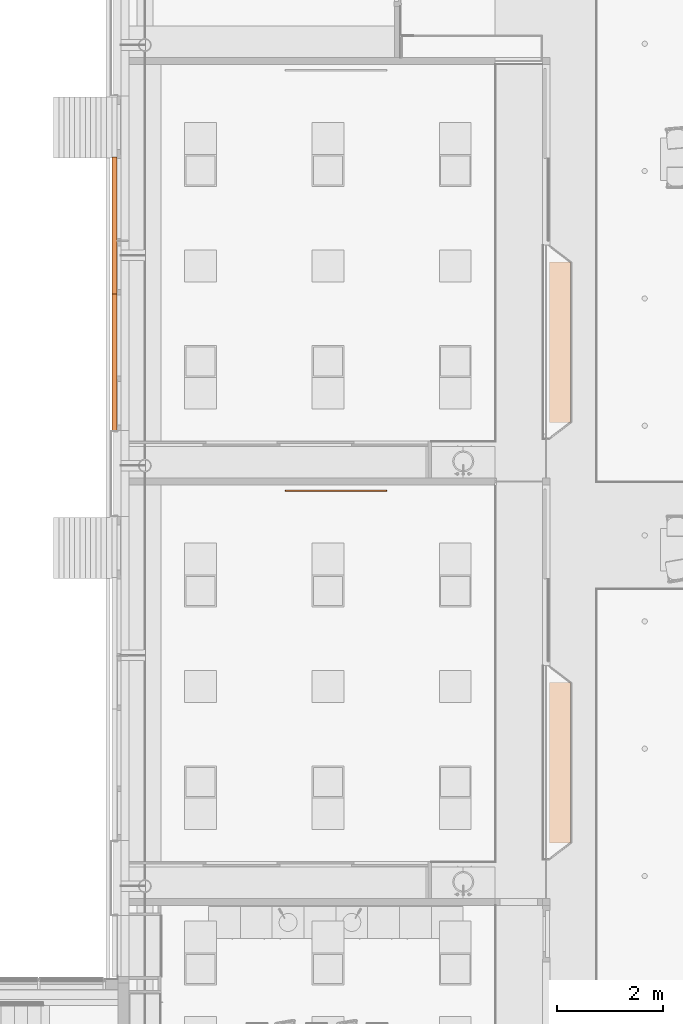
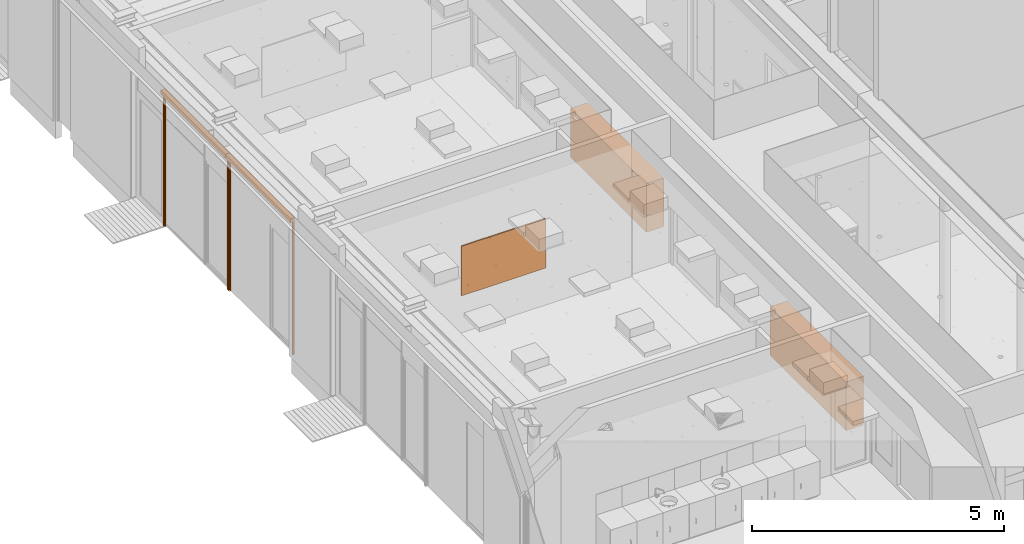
# One storey, part 331 of 347: 5 proxies.
"""IFC2X3 building model written with IfcOpenShell, lengths in millimetres."""

from ifc_helpers import new_model, entity, si_unit, converted_unit, derived_unit, money_unit, direction, frame, origin_with_axes, place, context, subcontext, project, spatial, open_shell, faceted_brep, surface_model, source, transform, mapped, type_object, type_shapes, element, save


model = new_model("IFC2X3")

# Units and contexts
model_context = context("Model", 3, precision=0.01, world=origin_with_axes(), true_north=direction((0.0, 1.0)))
plan_context = context("Plan", 3, precision=0.01, world=origin_with_axes(), true_north=direction((0.0, 1.0)))
body_context = subcontext(model_context, "Body", "Model", "MODEL_VIEW")
ifc_project = project(units=[si_unit("LENGTHUNIT", "METRE", prefix="MILLI"), si_unit("AREAUNIT", "SQUARE_METRE"), si_unit("VOLUMEUNIT", "CUBIC_METRE"), converted_unit("PLANEANGLEUNIT", "DEGREE", entity("IfcPlaneAngleMeasure", 0.0174532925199), si_unit("PLANEANGLEUNIT", "RADIAN"), dimensions=[0, 0, 0, 0, 0, 0, 0]), money_unit("EUR"), converted_unit("TIMEUNIT", "Year", entity("IfcTimeMeasure", 31556926.0), si_unit("TIMEUNIT", "SECOND"), dimensions=[0, 0, 1, 0, 0, 0, 0]), si_unit("MASSUNIT", "GRAM", prefix="KILO"), si_unit("THERMODYNAMICTEMPERATUREUNIT", "DEGREE_CELSIUS"), si_unit("LUMINOUSINTENSITYUNIT", "LUMEN"), si_unit("ENERGYUNIT", "JOULE", prefix="MEGA"), derived_unit("THERMALCONDUCTANCEUNIT", [(si_unit("POWERUNIT", "WATT"), 1), (si_unit("LENGTHUNIT", "METRE"), -1), (si_unit("THERMODYNAMICTEMPERATUREUNIT", "KELVIN"), -1)]), derived_unit("SPECIFICHEATCAPACITYUNIT", [(si_unit("ENERGYUNIT", "JOULE"), 1), (si_unit("MASSUNIT", "GRAM", prefix="KILO"), -1), (si_unit("THERMODYNAMICTEMPERATUREUNIT", "KELVIN"), -1)]), derived_unit("MASSDENSITYUNIT", [(si_unit("MASSUNIT", "GRAM", prefix="KILO"), 1), (si_unit("VOLUMEUNIT", "CUBIC_METRE"), -1)])], contexts=[model_context, plan_context])

# Site, building, storey
site_placement = place(None, origin_with_axes())
site = spatial("IfcSite", under=ifc_project, at=site_placement, Name="Site", CompositionType="ELEMENT")
building_placement = place(site_placement, origin_with_axes())
building = spatial("IfcBuilding", under=site, at=building_placement, Name="Naam gebouw", CompositionType="ELEMENT")
storey_placement = place(building_placement, origin_with_axes())
storey = spatial("IfcBuildingStorey", under=building, at=storey_placement, Name="begane grond", CompositionType="ELEMENT", Elevation=0.0)

# Proxies
building_element_proxy_type_1 = type_object("IfcBuildingElementProxyType", Name="Digitaal bord 25", PredefinedType="NOTDEFINED")
shared_shape_1 = source(origin_with_axes(), body_context, "Body", "SurfaceModel", [
    faceted_brep([(0.0, 0.0, 1000.0), (1930.0, 0.0, 1000.0), (1930.0, -30.0, 1000.0), (0.0, -30.0, 1000.0), (0.0, 0.0, 2185.0), (4.3933982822, 0.0, 2195.60660172), (15.0, 0.0, 2200.0), (1915.0, 0.0, 2200.0), (1925.60660172, 0.0, 2195.60660172), (1930.0, 0.0, 2185.0), (20.0, 0.0, 1025.0), (1910.0, 0.0, 1025.0), (1910.0, 0.0, 2180.0), (20.0, 0.0, 2180.0), (1930.0, -30.0, 2185.0), (1925.60660172, -30.0, 2195.60660172), (1915.0, -30.0, 2200.0), (15.0, -30.0, 2200.0), (4.3933982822, -30.0, 2195.60660172), (0.0, -30.0, 2185.0), (20.0, -30.0, 1025.0), (20.0, -30.0, 2180.0), (1910.0, -30.0, 2180.0), (1910.0, -30.0, 1025.0)], [[[0, 1, 2, 3]], [[0, 4, 5, 6, 7, 8, 9, 1], [10, 11, 12, 13]], [[1, 9, 14, 2]], [[3, 2, 14, 15, 16, 17, 18, 19], [20, 21, 22, 23]], [[4, 0, 3, 19]], [[5, 4, 19, 18]], [[6, 5, 18, 17]], [[7, 6, 17, 16]], [[8, 7, 16, 15]], [[9, 8, 15, 14]], [[11, 10, 20, 23]], [[12, 11, 23, 22]], [[13, 12, 22, 21]], [[10, 13, 21, 20]]]),
    faceted_brep([(20.0, 0.0, 1025.0), (1910.0, 0.0, 1025.0), (1910.0, -29.0, 1025.0), (20.0, -29.0, 1025.0), (20.0, 0.0, 2180.0), (1910.0, 0.0, 2180.0), (1910.0, -29.0, 2180.0), (20.0, -29.0, 2180.0)], [[[0, 1, 2, 3]], [[0, 4, 5, 1]], [[1, 5, 6, 2]], [[3, 2, 6, 7]], [[4, 0, 3, 7]], [[5, 4, 7, 6]]]),
    surface_model("IfcShellBasedSurfaceModel", [(20.0, -30.0, 1025.0), (1910.0, -30.0, 1025.0), (1910.0, -30.0, 2180.0), (20.0, -30.0, 2180.0)], [open_shell([[[0, 1, 2, 3]]])]),
])
type_shapes(building_element_proxy_type_1, [shared_shape_1])
proxy_placement = place(storey_placement, frame((27212.556147, 27812.5, 0.0), z_axis=(0.0, 0.0, 1.0), x_axis=(1.0, 0.0, 0.0)))
element("IfcBuildingElementProxy", 1, at=proxy_placement, inside=storey, type_object=building_element_proxy_type_1, Name="82_DiGi-bord", context=body_context, shape_type="MappedRepresentation", body=[
    mapped(shared_shape_1, transform((0.0, 0.0, 0.0))),
])
building_element_proxy_type_2 = type_object("IfcBuildingElementProxyType", Name="Screen 25 KM", PredefinedType="NOTDEFINED")
shared_shape_2 = source(origin_with_axes(), body_context, "Body", "SurfaceModel", [
    faceted_brep([(0.0, 0.0, 0.0), (0.0, 0.0, 3220.0), (0.0, -40.0, 3220.0), (0.0, -40.0, 0.0), (-38.0, 0.0, 0.0), (-38.0, 0.0, 3220.0), (-38.0, -10.0, 3220.0), (-35.0, -10.0, 3220.0), (-35.0, -3.0, 3220.0), (-3.0, -3.0, 3220.0), (-3.0, -37.0, 3220.0), (-35.0, -37.0, 3220.0), (-35.0, -30.0, 3220.0), (-38.0, -30.0, 3220.0), (-38.0, -40.0, 3220.0), (-38.0, -40.0, 0.0), (-38.0, -30.0, 0.0), (-35.0, -30.0, 0.0), (-35.0, -37.0, 0.0), (-3.0, -37.0, 0.0), (-3.0, -3.0, 0.0), (-35.0, -3.0, 0.0), (-35.0, -10.0, 0.0), (-38.0, -10.0, 0.0)], [[[0, 1, 2, 3]], [[4, 5, 1, 0]], [[1, 5, 6, 7, 8, 9, 10, 11, 12, 13, 14, 2]], [[3, 2, 14, 15]], [[0, 3, 15, 16, 17, 18, 19, 20, 21, 22, 23, 4]], [[23, 6, 5, 4]], [[22, 7, 6, 23]], [[21, 8, 7, 22]], [[20, 9, 8, 21]], [[19, 10, 9, 20]], [[18, 11, 10, 19]], [[17, 12, 11, 18]], [[16, 13, 12, 17]], [[15, 14, 13, 16]]]),
    faceted_brep([(-2575.0, 0.0, 0.0), (-2575.0, -40.0, 0.0), (-2575.0, -40.0, 3220.0), (-2575.0, 0.0, 3220.0), (-2537.0, 0.0, 0.0), (-2537.0, -10.0, 0.0), (-2540.0, -10.0, 0.0), (-2540.0, -3.0, 0.0), (-2572.0, -3.0, 0.0), (-2572.0, -37.0, 0.0), (-2540.0, -37.0, 0.0), (-2540.0, -30.0, 0.0), (-2537.0, -30.0, 0.0), (-2537.0, -40.0, 0.0), (-2537.0, -40.0, 3220.0), (-2537.0, -30.0, 3220.0), (-2540.0, -30.0, 3220.0), (-2540.0, -37.0, 3220.0), (-2572.0, -37.0, 3220.0), (-2572.0, -3.0, 3220.0), (-2540.0, -3.0, 3220.0), (-2540.0, -10.0, 3220.0), (-2537.0, -10.0, 3220.0), (-2537.0, 0.0, 3220.0)], [[[0, 1, 2, 3]], [[0, 4, 5, 6, 7, 8, 9, 10, 11, 12, 13, 1]], [[1, 13, 14, 2]], [[3, 2, 14, 15, 16, 17, 18, 19, 20, 21, 22, 23]], [[4, 0, 3, 23]], [[5, 4, 23, 22]], [[6, 5, 22, 21]], [[7, 6, 21, 20]], [[8, 7, 20, 19]], [[9, 8, 19, 18]], [[10, 9, 18, 17]], [[11, 10, 17, 16]], [[12, 11, 16, 15]], [[13, 12, 15, 14]]]),
    surface_model("IfcShellBasedSurfaceModel", [(0.0, 0.0, 3320.0), (0.0, -100.0, 3320.0), (0.0, -100.0, 3220.0), (0.0, 0.0, 3220.0)], [open_shell([[[0, 1, 2, 3]]])]),
    surface_model("IfcShellBasedSurfaceModel", [(-0.01, 0.0, 3320.0), (-2574.99, 0.0, 3320.0), (-2574.99, -100.0, 3320.0), (-0.00999999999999, -100.0, 3320.0), (-0.01, 0.0, 3223.0), (-2574.99, 0.0, 3223.0), (-2574.99, -6.0, 3223.0), (-2574.99, -6.0, 3226.0), (-2574.99, -3.0, 3226.0), (-2574.99, -3.0, 3317.0), (-2574.99, -97.0, 3317.0), (-2574.99, -97.0, 3223.0), (-2574.99, -40.0, 3223.0), (-2574.99, -40.0, 3217.0), (-2574.99, -43.0, 3217.0), (-2574.99, -43.0, 3220.0), (-2574.99, -100.0, 3220.0), (-0.01, -100.0, 3220.0), (-0.01, -43.0, 3220.0), (-0.01, -43.0, 3217.0), (-0.01, -40.0, 3217.0), (-0.01, -40.0, 3223.0), (-0.01, -97.0, 3223.0), (-0.00999999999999, -97.0, 3317.0), (-0.01, -3.0, 3317.0), (-0.01, -3.0, 3226.0), (-0.01, -6.0, 3226.0), (-0.01, -6.0, 3223.0)], [open_shell([[[0, 1, 2, 3]], [[4, 5, 1, 0]], [[1, 5, 6, 7, 8, 9, 10, 11, 12, 13, 14, 15, 16, 2]], [[3, 2, 16, 17]], [[0, 3, 17, 18, 19, 20, 21, 22, 23, 24, 25, 26, 27, 4]], [[19, 14, 13, 20]], [[18, 15, 14, 19]], [[17, 16, 15, 18]]])]),
    surface_model("IfcShellBasedSurfaceModel", [(-2574.99, 0.0, 3320.0), (-2574.99, -100.0, 3320.0), (-2574.99, -100.0, 3220.0), (-2574.99, 0.0, 3220.0)], [open_shell([[[0, 1, 2, 3]]])]),
])
type_shapes(building_element_proxy_type_2, [shared_shape_2])
for number, where, z_axis, x_axis, name in (
    (2, (24052.0, 28937.5, -10.0), (0.0, 0.0, 1.0), (0.0, -1.0, 0.0), "_78 garderobe"),
    (3, (24052.0, 31512.5, -10.0), (0.0, 0.0, 1.0), (0.0, -1.0, 0.0), "_78 garderobe"),
):
    element("IfcBuildingElementProxy", number, at=place(storey_placement, frame(where, z_axis=z_axis, x_axis=x_axis)), inside=storey, type_object=building_element_proxy_type_2, Name=name, context=body_context, shape_type="MappedRepresentation", body=[
        mapped(shared_shape_2, transform((0.0, 0.0, 0.0))),
    ])
building_element_proxy_type_3 = type_object("IfcBuildingElementProxyType", Name="Kast modulair 25", PredefinedType="NOTDEFINED")
shared_shape_3 = source(origin_with_axes(), body_context, "Body", "Brep", [
    faceted_brep([(0.0, 10.0, 0.0), (3018.0, 10.0, 0.0), (3018.0, 10.0, 50.0), (0.0, 10.0, 50.0), (0.0, 400.0, 0.0), (3018.0, 400.0, 0.0), (3018.0, 400.0, 50.0), (0.0, 400.0, 50.0)], [[[0, 1, 2, 3]], [[0, 4, 5, 1]], [[1, 5, 6, 2]], [[3, 2, 6, 7]], [[4, 0, 3, 7]], [[5, 4, 7, 6]]]),
    faceted_brep([(18.0, 400.0, 68.0), (3000.0, 400.0, 68.0), (3000.0, 382.0, 68.0), (18.0, 382.0, 68.0), (18.0, 400.0, 1160.0), (3000.0, 400.0, 1160.0), (3000.0, 400.0, 790.0), (3000.0, 400.0, 420.0), (3000.0, 382.0, 420.0), (3000.0, 382.0, 790.0), (3000.0, 382.0, 1160.0), (18.0, 382.0, 1160.0)], [[[0, 1, 2, 3]], [[0, 4, 5, 6, 7, 1]], [[1, 7, 8, 2]], [[3, 2, 8, 9, 10, 11]], [[4, 0, 3, 11]], [[5, 4, 11, 10]], [[6, 5, 10, 9]], [[7, 6, 9, 8]]]),
    faceted_brep([(3018.0, 0.0, 50.0), (0.0, 0.0, 50.0), (0.0, 400.0, 50.0), (3018.0, 400.0, 50.0), (3018.0, 0.0, 68.0), (0.0, 0.0, 68.0), (0.0, 400.0, 68.0), (3018.0, 400.0, 68.0)], [[[0, 1, 2, 3]], [[1, 0, 4, 5]], [[2, 1, 5, 6]], [[3, 2, 6, 7]], [[0, 3, 7, 4]], [[5, 4, 7, 6]]]),
    faceted_brep([(18.0, 0.0, 68.0), (0.0, 0.0, 68.0), (0.0, 400.0, 68.0), (18.0, 400.0, 68.0), (18.0, 0.0, 420.0), (0.0, 0.0, 420.0), (0.0, 400.0, 420.0), (18.0, 400.0, 420.0)], [[[0, 1, 2, 3]], [[1, 0, 4, 5]], [[2, 1, 5, 6]], [[3, 2, 6, 7]], [[0, 3, 7, 4]], [[5, 4, 7, 6]]]),
    faceted_brep([(318.0, 0.0, 68.0), (300.0, 0.0, 68.0), (300.0, 382.0, 68.0), (318.0, 382.0, 68.0), (318.0, 0.0, 420.0), (300.0, 0.0, 420.0), (300.0, 382.0, 420.0), (318.0, 382.0, 420.0)], [[[0, 1, 2, 3]], [[1, 0, 4, 5]], [[2, 1, 5, 6]], [[3, 2, 6, 7]], [[0, 3, 7, 4]], [[5, 4, 7, 6]]]),
    faceted_brep([(618.0, 0.0, 68.0), (600.0, 0.0, 68.0), (600.0, 382.0, 68.0), (618.0, 382.0, 68.0), (618.0, 0.0, 420.0), (600.0, 0.0, 420.0), (600.0, 382.0, 420.0), (618.0, 382.0, 420.0)], [[[0, 1, 2, 3]], [[1, 0, 4, 5]], [[2, 1, 5, 6]], [[3, 2, 6, 7]], [[0, 3, 7, 4]], [[5, 4, 7, 6]]]),
    faceted_brep([(918.0, 0.0, 68.0), (900.0, 0.0, 68.0), (900.0, 382.0, 68.0), (918.0, 382.0, 68.0), (918.0, 0.0, 420.0), (900.0, 0.0, 420.0), (900.0, 382.0, 420.0), (918.0, 382.0, 420.0)], [[[0, 1, 2, 3]], [[1, 0, 4, 5]], [[2, 1, 5, 6]], [[3, 2, 6, 7]], [[0, 3, 7, 4]], [[5, 4, 7, 6]]]),
    faceted_brep([(1218.0, 0.0, 68.0), (1200.0, 0.0, 68.0), (1200.0, 382.0, 68.0), (1218.0, 382.0, 68.0), (1218.0, 0.0, 420.0), (1200.0, 0.0, 420.0), (1200.0, 382.0, 420.0), (1218.0, 382.0, 420.0)], [[[0, 1, 2, 3]], [[1, 0, 4, 5]], [[2, 1, 5, 6]], [[3, 2, 6, 7]], [[0, 3, 7, 4]], [[5, 4, 7, 6]]]),
    faceted_brep([(1518.0, 0.0, 68.0), (1500.0, 0.0, 68.0), (1500.0, 382.0, 68.0), (1518.0, 382.0, 68.0), (1518.0, 0.0, 420.0), (1500.0, 0.0, 420.0), (1500.0, 382.0, 420.0), (1518.0, 382.0, 420.0)], [[[0, 1, 2, 3]], [[1, 0, 4, 5]], [[2, 1, 5, 6]], [[3, 2, 6, 7]], [[0, 3, 7, 4]], [[5, 4, 7, 6]]]),
    faceted_brep([(1818.0, 0.0, 68.0), (1800.0, 0.0, 68.0), (1800.0, 382.0, 68.0), (1818.0, 382.0, 68.0), (1818.0, 0.0, 420.0), (1800.0, 0.0, 420.0), (1800.0, 382.0, 420.0), (1818.0, 382.0, 420.0)], [[[0, 1, 2, 3]], [[1, 0, 4, 5]], [[2, 1, 5, 6]], [[3, 2, 6, 7]], [[0, 3, 7, 4]], [[5, 4, 7, 6]]]),
    faceted_brep([(2118.0, 0.0, 68.0), (2100.0, 0.0, 68.0), (2100.0, 382.0, 68.0), (2118.0, 382.0, 68.0), (2118.0, 0.0, 420.0), (2100.0, 0.0, 420.0), (2100.0, 382.0, 420.0), (2118.0, 382.0, 420.0)], [[[0, 1, 2, 3]], [[1, 0, 4, 5]], [[2, 1, 5, 6]], [[3, 2, 6, 7]], [[0, 3, 7, 4]], [[5, 4, 7, 6]]]),
    faceted_brep([(2418.0, 0.0, 68.0), (2400.0, 0.0, 68.0), (2400.0, 382.0, 68.0), (2418.0, 382.0, 68.0), (2418.0, 0.0, 420.0), (2400.0, 0.0, 420.0), (2400.0, 382.0, 420.0), (2418.0, 382.0, 420.0)], [[[0, 1, 2, 3]], [[1, 0, 4, 5]], [[2, 1, 5, 6]], [[3, 2, 6, 7]], [[0, 3, 7, 4]], [[5, 4, 7, 6]]]),
    faceted_brep([(2718.0, 0.0, 68.0), (2700.0, 0.0, 68.0), (2700.0, 382.0, 68.0), (2718.0, 382.0, 68.0), (2718.0, 0.0, 420.0), (2700.0, 0.0, 420.0), (2700.0, 382.0, 420.0), (2718.0, 382.0, 420.0)], [[[0, 1, 2, 3]], [[1, 0, 4, 5]], [[2, 1, 5, 6]], [[3, 2, 6, 7]], [[0, 3, 7, 4]], [[5, 4, 7, 6]]]),
    faceted_brep([(3018.0, 0.0, 68.0), (3000.0, 0.0, 68.0), (3000.0, 400.0, 68.0), (3018.0, 400.0, 68.0), (3018.0, 0.0, 420.0), (3000.0, 0.0, 420.0), (3000.0, 400.0, 420.0), (3018.0, 400.0, 420.0)], [[[0, 1, 2, 3]], [[1, 0, 4, 5]], [[2, 1, 5, 6]], [[3, 2, 6, 7]], [[0, 3, 7, 4]], [[5, 4, 7, 6]]]),
    faceted_brep([(3000.0, 400.0, 420.0), (3000.0, 400.0, 438.0), (3018.0, 400.0, 438.0), (3018.0, 400.0, 420.0), (3000.0, 382.0, 438.0), (3000.0, 382.0, 420.0), (18.0, 382.0, 438.0), (18.0, 400.0, 438.0), (0.0, 400.0, 438.0), (0.0, 0.0, 438.0), (3018.0, 0.0, 438.0), (3018.0, 0.0, 420.0), (0.0, 0.0, 420.0), (0.0, 400.0, 420.0), (18.0, 400.0, 420.0), (18.0, 382.0, 420.0)], [[[0, 1, 2, 3]], [[4, 1, 0, 5]], [[6, 7, 8, 9, 10, 2, 1, 4]], [[3, 2, 10, 11]], [[5, 0, 3, 11, 12, 13, 14, 15]], [[6, 4, 5, 15]], [[14, 7, 6, 15]], [[7, 14, 13, 8]], [[12, 9, 8, 13]], [[11, 10, 9, 12]]]),
    faceted_brep([(3000.0, 400.0, 790.0), (3000.0, 400.0, 808.0), (3018.0, 400.0, 808.0), (3018.0, 400.0, 790.0), (3000.0, 382.0, 808.0), (3000.0, 382.0, 790.0), (18.0, 382.0, 808.0), (18.0, 400.0, 808.0), (0.0, 400.0, 808.0), (0.0, 0.0, 808.0), (3018.0, 0.0, 808.0), (3018.0, 0.0, 790.0), (0.0, 0.0, 790.0), (0.0, 400.0, 790.0), (18.0, 400.0, 790.0), (18.0, 382.0, 790.0)], [[[0, 1, 2, 3]], [[4, 1, 0, 5]], [[6, 7, 8, 9, 10, 2, 1, 4]], [[3, 2, 10, 11]], [[5, 0, 3, 11, 12, 13, 14, 15]], [[6, 4, 5, 15]], [[14, 7, 6, 15]], [[7, 14, 13, 8]], [[12, 9, 8, 13]], [[11, 10, 9, 12]]]),
    faceted_brep([(18.0, 0.0, 438.0), (0.0, 0.0, 438.0), (0.0, 400.0, 438.0), (18.0, 400.0, 438.0), (18.0, 0.0, 790.0), (0.0, 0.0, 790.0), (0.0, 400.0, 790.0), (18.0, 400.0, 790.0)], [[[0, 1, 2, 3]], [[1, 0, 4, 5]], [[2, 1, 5, 6]], [[3, 2, 6, 7]], [[0, 3, 7, 4]], [[5, 4, 7, 6]]]),
    faceted_brep([(318.0, 0.0, 438.0), (300.0, 0.0, 438.0), (300.0, 382.0, 438.0), (318.0, 382.0, 438.0), (318.0, 0.0, 790.0), (300.0, 0.0, 790.0), (300.0, 382.0, 790.0), (318.0, 382.0, 790.0)], [[[0, 1, 2, 3]], [[1, 0, 4, 5]], [[2, 1, 5, 6]], [[3, 2, 6, 7]], [[0, 3, 7, 4]], [[5, 4, 7, 6]]]),
    faceted_brep([(618.0, 0.0, 438.0), (600.0, 0.0, 438.0), (600.0, 382.0, 438.0), (618.0, 382.0, 438.0), (618.0, 0.0, 790.0), (600.0, 0.0, 790.0), (600.0, 382.0, 790.0), (618.0, 382.0, 790.0)], [[[0, 1, 2, 3]], [[1, 0, 4, 5]], [[2, 1, 5, 6]], [[3, 2, 6, 7]], [[0, 3, 7, 4]], [[5, 4, 7, 6]]]),
    faceted_brep([(918.0, 0.0, 438.0), (900.0, 0.0, 438.0), (900.0, 382.0, 438.0), (918.0, 382.0, 438.0), (918.0, 0.0, 790.0), (900.0, 0.0, 790.0), (900.0, 382.0, 790.0), (918.0, 382.0, 790.0)], [[[0, 1, 2, 3]], [[1, 0, 4, 5]], [[2, 1, 5, 6]], [[3, 2, 6, 7]], [[0, 3, 7, 4]], [[5, 4, 7, 6]]]),
    faceted_brep([(1218.0, 0.0, 438.0), (1200.0, 0.0, 438.0), (1200.0, 382.0, 438.0), (1218.0, 382.0, 438.0), (1218.0, 0.0, 790.0), (1200.0, 0.0, 790.0), (1200.0, 382.0, 790.0), (1218.0, 382.0, 790.0)], [[[0, 1, 2, 3]], [[1, 0, 4, 5]], [[2, 1, 5, 6]], [[3, 2, 6, 7]], [[0, 3, 7, 4]], [[5, 4, 7, 6]]]),
    faceted_brep([(1518.0, 0.0, 438.0), (1500.0, 0.0, 438.0), (1500.0, 382.0, 438.0), (1518.0, 382.0, 438.0), (1518.0, 0.0, 790.0), (1500.0, 0.0, 790.0), (1500.0, 382.0, 790.0), (1518.0, 382.0, 790.0)], [[[0, 1, 2, 3]], [[1, 0, 4, 5]], [[2, 1, 5, 6]], [[3, 2, 6, 7]], [[0, 3, 7, 4]], [[5, 4, 7, 6]]]),
    faceted_brep([(1818.0, 0.0, 438.0), (1800.0, 0.0, 438.0), (1800.0, 382.0, 438.0), (1818.0, 382.0, 438.0), (1818.0, 0.0, 790.0), (1800.0, 0.0, 790.0), (1800.0, 382.0, 790.0), (1818.0, 382.0, 790.0)], [[[0, 1, 2, 3]], [[1, 0, 4, 5]], [[2, 1, 5, 6]], [[3, 2, 6, 7]], [[0, 3, 7, 4]], [[5, 4, 7, 6]]]),
    faceted_brep([(2118.0, 0.0, 438.0), (2100.0, 0.0, 438.0), (2100.0, 382.0, 438.0), (2118.0, 382.0, 438.0), (2118.0, 0.0, 790.0), (2100.0, 0.0, 790.0), (2100.0, 382.0, 790.0), (2118.0, 382.0, 790.0)], [[[0, 1, 2, 3]], [[1, 0, 4, 5]], [[2, 1, 5, 6]], [[3, 2, 6, 7]], [[0, 3, 7, 4]], [[5, 4, 7, 6]]]),
    faceted_brep([(2418.0, 0.0, 438.0), (2400.0, 0.0, 438.0), (2400.0, 382.0, 438.0), (2418.0, 382.0, 438.0), (2418.0, 0.0, 790.0), (2400.0, 0.0, 790.0), (2400.0, 382.0, 790.0), (2418.0, 382.0, 790.0)], [[[0, 1, 2, 3]], [[1, 0, 4, 5]], [[2, 1, 5, 6]], [[3, 2, 6, 7]], [[0, 3, 7, 4]], [[5, 4, 7, 6]]]),
    faceted_brep([(2718.0, 0.0, 438.0), (2700.0, 0.0, 438.0), (2700.0, 382.0, 438.0), (2718.0, 382.0, 438.0), (2718.0, 0.0, 790.0), (2700.0, 0.0, 790.0), (2700.0, 382.0, 790.0), (2718.0, 382.0, 790.0)], [[[0, 1, 2, 3]], [[1, 0, 4, 5]], [[2, 1, 5, 6]], [[3, 2, 6, 7]], [[0, 3, 7, 4]], [[5, 4, 7, 6]]]),
    faceted_brep([(3018.0, 0.0, 438.0), (3000.0, 0.0, 438.0), (3000.0, 400.0, 438.0), (3018.0, 400.0, 438.0), (3018.0, 0.0, 790.0), (3000.0, 0.0, 790.0), (3000.0, 400.0, 790.0), (3018.0, 400.0, 790.0)], [[[0, 1, 2, 3]], [[1, 0, 4, 5]], [[2, 1, 5, 6]], [[3, 2, 6, 7]], [[0, 3, 7, 4]], [[5, 4, 7, 6]]]),
    faceted_brep([(0.0, 0.0, 1160.0), (3018.0, 0.0, 1160.0), (3018.0, 0.0, 1178.0), (0.0, 0.0, 1178.0), (0.0, 400.0, 1160.0), (3018.0, 400.0, 1160.0), (3018.0, 400.0, 1178.0), (0.0, 400.0, 1178.0)], [[[0, 1, 2, 3]], [[0, 4, 5, 1]], [[1, 5, 6, 2]], [[3, 2, 6, 7]], [[4, 0, 3, 7]], [[5, 4, 7, 6]]]),
    faceted_brep([(18.0, 0.0, 808.0), (0.0, 0.0, 808.0), (0.0, 400.0, 808.0), (18.0, 400.0, 808.0), (18.0, 0.0, 1160.0), (0.0, 0.0, 1160.0), (0.0, 400.0, 1160.0), (18.0, 400.0, 1160.0)], [[[0, 1, 2, 3]], [[1, 0, 4, 5]], [[2, 1, 5, 6]], [[3, 2, 6, 7]], [[0, 3, 7, 4]], [[5, 4, 7, 6]]]),
    faceted_brep([(318.0, 0.0, 808.0), (300.0, 0.0, 808.0), (300.0, 382.0, 808.0), (318.0, 382.0, 808.0), (318.0, 0.0, 1160.0), (300.0, 0.0, 1160.0), (300.0, 382.0, 1160.0), (318.0, 382.0, 1160.0)], [[[0, 1, 2, 3]], [[1, 0, 4, 5]], [[2, 1, 5, 6]], [[3, 2, 6, 7]], [[0, 3, 7, 4]], [[5, 4, 7, 6]]]),
    faceted_brep([(618.0, 0.0, 808.0), (600.0, 0.0, 808.0), (600.0, 382.0, 808.0), (618.0, 382.0, 808.0), (618.0, 0.0, 1160.0), (600.0, 0.0, 1160.0), (600.0, 382.0, 1160.0), (618.0, 382.0, 1160.0)], [[[0, 1, 2, 3]], [[1, 0, 4, 5]], [[2, 1, 5, 6]], [[3, 2, 6, 7]], [[0, 3, 7, 4]], [[5, 4, 7, 6]]]),
    faceted_brep([(918.0, 0.0, 808.0), (900.0, 0.0, 808.0), (900.0, 382.0, 808.0), (918.0, 382.0, 808.0), (918.0, 0.0, 1160.0), (900.0, 0.0, 1160.0), (900.0, 382.0, 1160.0), (918.0, 382.0, 1160.0)], [[[0, 1, 2, 3]], [[1, 0, 4, 5]], [[2, 1, 5, 6]], [[3, 2, 6, 7]], [[0, 3, 7, 4]], [[5, 4, 7, 6]]]),
    faceted_brep([(1218.0, 0.0, 808.0), (1200.0, 0.0, 808.0), (1200.0, 382.0, 808.0), (1218.0, 382.0, 808.0), (1218.0, 0.0, 1160.0), (1200.0, 0.0, 1160.0), (1200.0, 382.0, 1160.0), (1218.0, 382.0, 1160.0)], [[[0, 1, 2, 3]], [[1, 0, 4, 5]], [[2, 1, 5, 6]], [[3, 2, 6, 7]], [[0, 3, 7, 4]], [[5, 4, 7, 6]]]),
    faceted_brep([(1518.0, 0.0, 808.0), (1500.0, 0.0, 808.0), (1500.0, 382.0, 808.0), (1518.0, 382.0, 808.0), (1518.0, 0.0, 1160.0), (1500.0, 0.0, 1160.0), (1500.0, 382.0, 1160.0), (1518.0, 382.0, 1160.0)], [[[0, 1, 2, 3]], [[1, 0, 4, 5]], [[2, 1, 5, 6]], [[3, 2, 6, 7]], [[0, 3, 7, 4]], [[5, 4, 7, 6]]]),
    faceted_brep([(1818.0, 0.0, 808.0), (1800.0, 0.0, 808.0), (1800.0, 382.0, 808.0), (1818.0, 382.0, 808.0), (1818.0, 0.0, 1160.0), (1800.0, 0.0, 1160.0), (1800.0, 382.0, 1160.0), (1818.0, 382.0, 1160.0)], [[[0, 1, 2, 3]], [[1, 0, 4, 5]], [[2, 1, 5, 6]], [[3, 2, 6, 7]], [[0, 3, 7, 4]], [[5, 4, 7, 6]]]),
    faceted_brep([(2118.0, 0.0, 808.0), (2100.0, 0.0, 808.0), (2100.0, 382.0, 808.0), (2118.0, 382.0, 808.0), (2118.0, 0.0, 1160.0), (2100.0, 0.0, 1160.0), (2100.0, 382.0, 1160.0), (2118.0, 382.0, 1160.0)], [[[0, 1, 2, 3]], [[1, 0, 4, 5]], [[2, 1, 5, 6]], [[3, 2, 6, 7]], [[0, 3, 7, 4]], [[5, 4, 7, 6]]]),
    faceted_brep([(2418.0, 0.0, 808.0), (2400.0, 0.0, 808.0), (2400.0, 382.0, 808.0), (2418.0, 382.0, 808.0), (2418.0, 0.0, 1160.0), (2400.0, 0.0, 1160.0), (2400.0, 382.0, 1160.0), (2418.0, 382.0, 1160.0)], [[[0, 1, 2, 3]], [[1, 0, 4, 5]], [[2, 1, 5, 6]], [[3, 2, 6, 7]], [[0, 3, 7, 4]], [[5, 4, 7, 6]]]),
    faceted_brep([(2718.0, 0.0, 808.0), (2700.0, 0.0, 808.0), (2700.0, 382.0, 808.0), (2718.0, 382.0, 808.0), (2718.0, 0.0, 1160.0), (2700.0, 0.0, 1160.0), (2700.0, 382.0, 1160.0), (2718.0, 382.0, 1160.0)], [[[0, 1, 2, 3]], [[1, 0, 4, 5]], [[2, 1, 5, 6]], [[3, 2, 6, 7]], [[0, 3, 7, 4]], [[5, 4, 7, 6]]]),
    faceted_brep([(3018.0, 0.0, 808.0), (3000.0, 0.0, 808.0), (3000.0, 400.0, 808.0), (3018.0, 400.0, 808.0), (3018.0, 0.0, 1160.0), (3000.0, 0.0, 1160.0), (3000.0, 400.0, 1160.0), (3018.0, 400.0, 1160.0)], [[[0, 1, 2, 3]], [[1, 0, 4, 5]], [[2, 1, 5, 6]], [[3, 2, 6, 7]], [[0, 3, 7, 4]], [[5, 4, 7, 6]]]),
])
type_shapes(building_element_proxy_type_3, [shared_shape_3])
for number, where, z_axis, x_axis, name in (
    (4, (32600.00212, 21165.5, 0.0), (0.0, 0.0, 1.0), (0.0, 1.0, 0.0), "72_72 garderobe"),
    (5, (32600.00212, 29090.5, 0.0), (0.0, 0.0, 1.0), (0.0, 1.0, 0.0), "72_72 garderobe"),
):
    element("IfcBuildingElementProxy", number, at=place(storey_placement, frame(where, z_axis=z_axis, x_axis=x_axis)), inside=storey, type_object=building_element_proxy_type_3, Name=name, context=body_context, shape_type="MappedRepresentation", body=[
        mapped(shared_shape_3, transform((0.0, 0.0, 0.0))),
    ])

save(model, "model.ifc")
